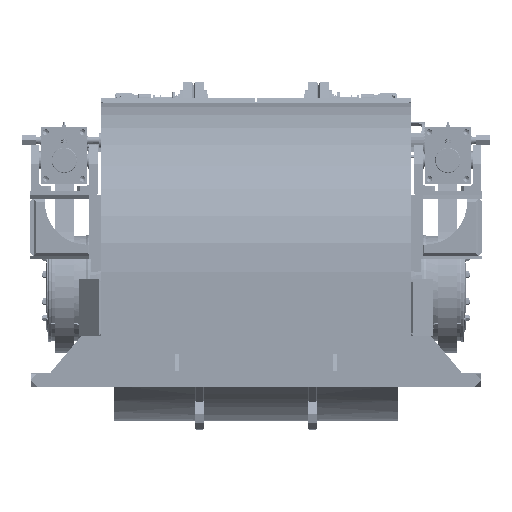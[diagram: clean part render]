
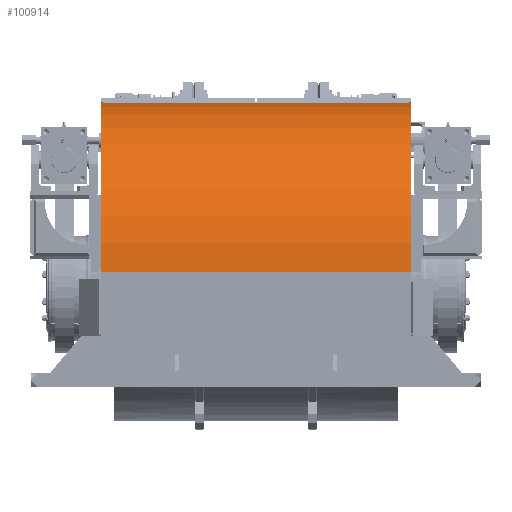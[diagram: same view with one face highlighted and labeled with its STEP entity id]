
A CAD part, front view. The second image highlights one B-rep face of the part: STEP entity #100914.
In plain terms, the highlighted cylindrical face has radius 600 mm (diameter 1200 mm), a partial arc.
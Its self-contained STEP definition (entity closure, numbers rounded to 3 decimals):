
#2110=CYLINDRICAL_SURFACE('',#108496,600.);
#5872=FACE_OUTER_BOUND('',#11592,.T.);
#11592=EDGE_LOOP('',(#71982,#71983,#71984,#71985));
#17722=CIRCLE('',#108497,600.);
#17723=CIRCLE('',#108498,600.);
#23835=LINE('',#156019,#32571);
#23836=LINE('',#156023,#32572);
#32571=VECTOR('',#126288,10.);
#32572=VECTOR('',#126291,10.);
#41562=VERTEX_POINT('',#156017);
#41563=VERTEX_POINT('',#156018);
#41564=VERTEX_POINT('',#156020);
#41565=VERTEX_POINT('',#156022);
#52780=EDGE_CURVE('',#41562,#41563,#23835,.T.);
#52781=EDGE_CURVE('',#41562,#41564,#17722,.T.);
#52782=EDGE_CURVE('',#41565,#41564,#23836,.T.);
#52783=EDGE_CURVE('',#41563,#41565,#17723,.T.);
#71982=ORIENTED_EDGE('',*,*,#52780,.F.);
#71983=ORIENTED_EDGE('',*,*,#52781,.T.);
#71984=ORIENTED_EDGE('',*,*,#52782,.F.);
#71985=ORIENTED_EDGE('',*,*,#52783,.F.);
#100914=ADVANCED_FACE('',(#5872),#2110,.T.);
#108496=AXIS2_PLACEMENT_3D('',#156016,#126286,#126287);
#108497=AXIS2_PLACEMENT_3D('',#156021,#126289,#126290);
#108498=AXIS2_PLACEMENT_3D('',#156024,#126292,#126293);
#126286=DIRECTION('center_axis',(1.,0.,0.));
#126287=DIRECTION('ref_axis',(0.,0.155,0.988));
#126288=DIRECTION('',(1.,0.,0.));
#126289=DIRECTION('center_axis',(1.,0.,0.));
#126290=DIRECTION('ref_axis',(0.,0.155,0.988));
#126291=DIRECTION('',(-1.,0.,0.));
#126292=DIRECTION('center_axis',(1.,0.,0.));
#126293=DIRECTION('ref_axis',(0.,0.155,0.988));
#156016=CARTESIAN_POINT('Origin',(-551.,35.,57.5));
#156017=CARTESIAN_POINT('',(-1102.,115.092,652.13));
#156018=CARTESIAN_POINT('',(0.,115.092,652.13));
#156019=CARTESIAN_POINT('',(-551.,115.092,652.13));
#156020=CARTESIAN_POINT('',(-1102.,-565.,57.5));
#156021=CARTESIAN_POINT('Origin',(-1102.,35.,57.5));
#156022=CARTESIAN_POINT('',(0.,-565.,57.5));
#156023=CARTESIAN_POINT('',(-551.,-565.,57.5));
#156024=CARTESIAN_POINT('Origin',(0.,35.,
57.5));
